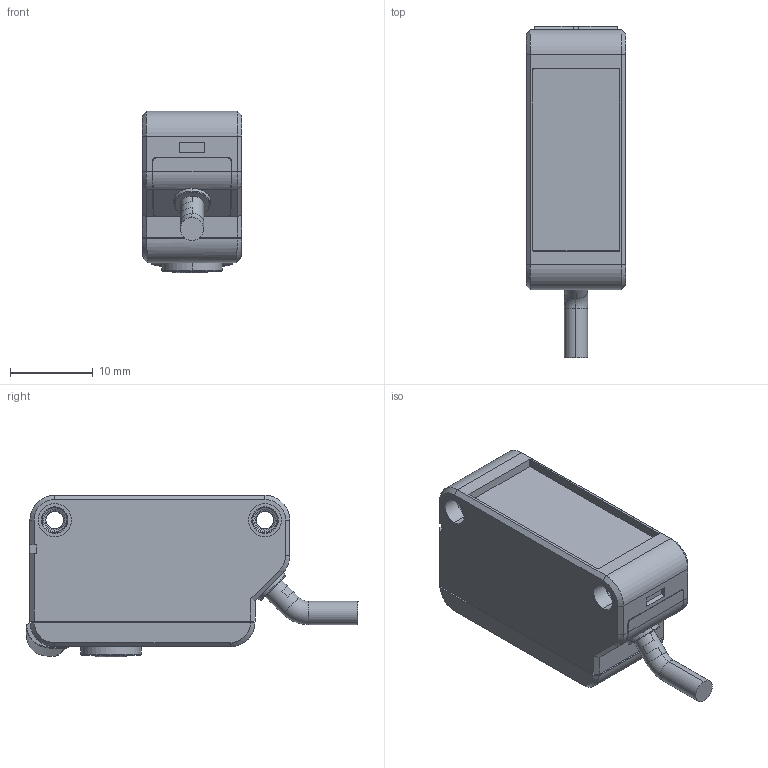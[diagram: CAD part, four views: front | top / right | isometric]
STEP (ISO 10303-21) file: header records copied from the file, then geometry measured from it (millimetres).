
FILE_DESCRIPTION((''),'2;1');
FILE_NAME('0-HUIGUIFANSHE_ASM','2023-02-27T11:16:11',('HP'),(''),'CREO PARAMETRIC BY PTC INC, 2019224','CREO PARAMETRIC BY PTC INC, 2019224','');
FILE_SCHEMA(('CONFIG_CONTROL_DESIGN','SHAPE_APPEARANCE_LAYERS_GROUPS'));
Length unit declared in the file: millimetre
Products named in the file (7): 50-0140131-TP; 0003; 50-0140101-BP; 0004; M3X12; 50-0100017-WIRE; 0-HUIGUIFANSHE_ASM
Assembly tree (7 placements, depth 2):
  0-HUIGUIFANSHE_ASM
    50-0140131-TP
    0003
    50-0140101-BP
    0004
    M3X12  x2
    50-0100017-WIRE
Bounding box: 12 x 40.11 x 19.5 mm (x, y, z)
Volume: 6040.2 mm3; surface area: 4286.3 mm2
Topology: 7 solids, 7 shells, 558 faces, 1491 edges, 973 vertices
Faces by surface type: plane 304, cylinder 147, bspline 48, cone 22, torus 14, extrusion 13, sphere 10
Entity records: 21940 total; most frequent: CARTESIAN_POINT 7844, ORIENTED_EDGE 2244, DIRECTION 1936, PRESENTATION_STYLE_ASSIGNMENT 1147, STYLED_ITEM 1129, CURVE_STYLE 1123, EDGE_CURVE 1122, VECTOR 732
